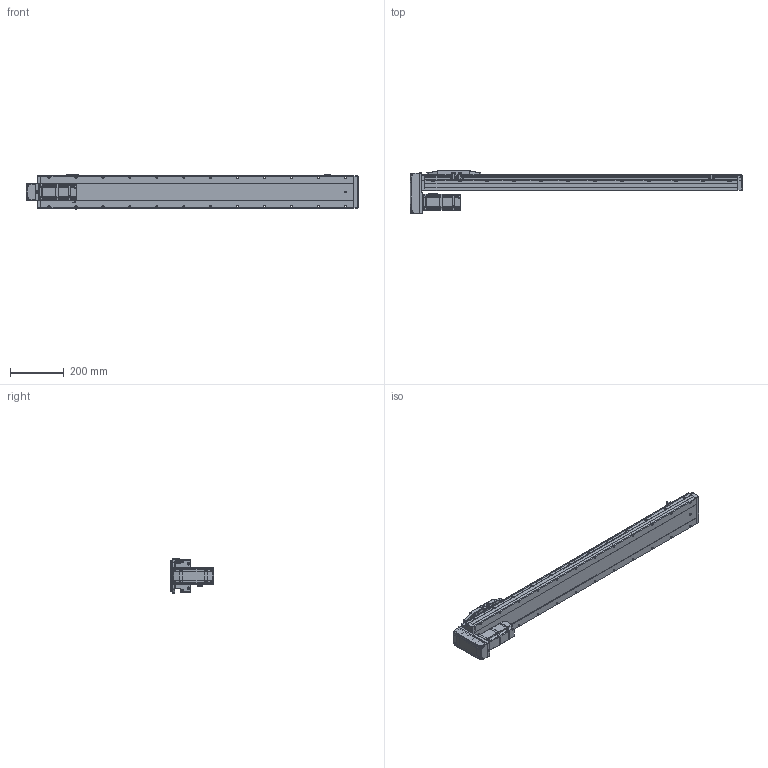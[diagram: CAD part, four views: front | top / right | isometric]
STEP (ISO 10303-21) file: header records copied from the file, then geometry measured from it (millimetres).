
FILE_DESCRIPTION (( 'STEP AP214' ), '1' );
FILE_NAME ('CTH12-L10-S950-BM-C40（简）.STEP', '2023-02-04T06:44:40', ( '' ), ( '' ), 'SwSTEP 2.0', 'SolidWorks 2018', '' );
FILE_SCHEMA (( 'AUTOMOTIVE_DESIGN' ));
Length unit declared in the file: millimetre
Products named in the file (25): CTH12; CTH400W垫板（3个厚）; 嫖萇羲壽郪磁2; 嫖萇羲壽郪磁1; PM-Y45; CTH12-BL_body_4; CTH12-L10-S950-BM-C40（简）; hex nuts, style 1-grades ab gb_GB_FASTENER_NUT_SNAB1 M3-N; 内六角圆柱头螺钉M5装饰螺钉; CTH8耜蚾蟀諉啣ㄗ潠ㄘ; CTH嫖萇羲壽假蚾啣; CTH12-BM-02; CTH400W假蚾啣; CTH12_body_3; 内六角圆柱头螺钉M3-2; CTH12賑怢郪磁; BM-C40; CTH12覜茼え; AC60_Valor predeterminado; 蚐郲; 湮賑怢  裔赽-1(CTH12)賑怢; 内六角圆柱头螺钉M3; CTH12底座-L1161简（950行程）; 内六角圆柱头螺钉M3-1; CTH12賑怢ㄗ潠ㄘ
Assembly tree (45 placements, depth 4):
  CTH12-L10-S950-BM-C40（简）
    CTH12底座-L1161简（950行程）
    蚐郲  x2
    CTH12_body_3
    CTH12-BL_body_4
    CTH12賑怢郪磁
      CTH12
        湮賑怢  裔赽-1(CTH12)賑怢
        CTH12賑怢ㄗ潠ㄘ
    CTH12覜茼え
    嫖萇羲壽郪磁1  x2
      CTH嫖萇羲壽假蚾啣
      PM-Y45
      内六角圆柱头螺钉M3-2
      内六角圆柱头螺钉M3-1
      hex nuts, style 1-grades ab gb_GB_FASTENER_NUT_SNAB1 M3-N
    嫖萇羲壽郪磁2
      CTH嫖萇羲壽假蚾啣
      PM-Y45
      内六角圆柱头螺钉M3-1  x2
      内六角圆柱头螺钉M3-2  x2
      hex nuts, style 1-grades ab gb_GB_FASTENER_NUT_SNAB1 M3-N  x2
    BM-C40
      CTH12-BM-02
      CTH8耜蚾蟀諉啣ㄗ潠ㄘ
    CTH400W垫板（3个厚）
    AC60_Valor predeterminado
    内六角圆柱头螺钉M3  x6
    内六角圆柱头螺钉M5装饰螺钉  x4
    CTH400W假蚾啣
Bounding box: 1231.5 x 162.5 x 131.52 mm (x, y, z)
Volume: 8270669.3 mm3; surface area: 744971.6 mm2
Topology: 47 solids, 48 shells, 2913 faces, 7387 edges, 4693 vertices
Faces by surface type: plane 1550, cylinder 856, cone 339, bspline 116, torus 52
Entity records: 81177 total; most frequent: CARTESIAN_POINT 19541, ORIENTED_EDGE 11954, DIRECTION 11878, EDGE_CURVE 5977, AXIS2_PLACEMENT_3D 4051, VERTEX_POINT 3797, VECTOR 3776, LINE 3776
